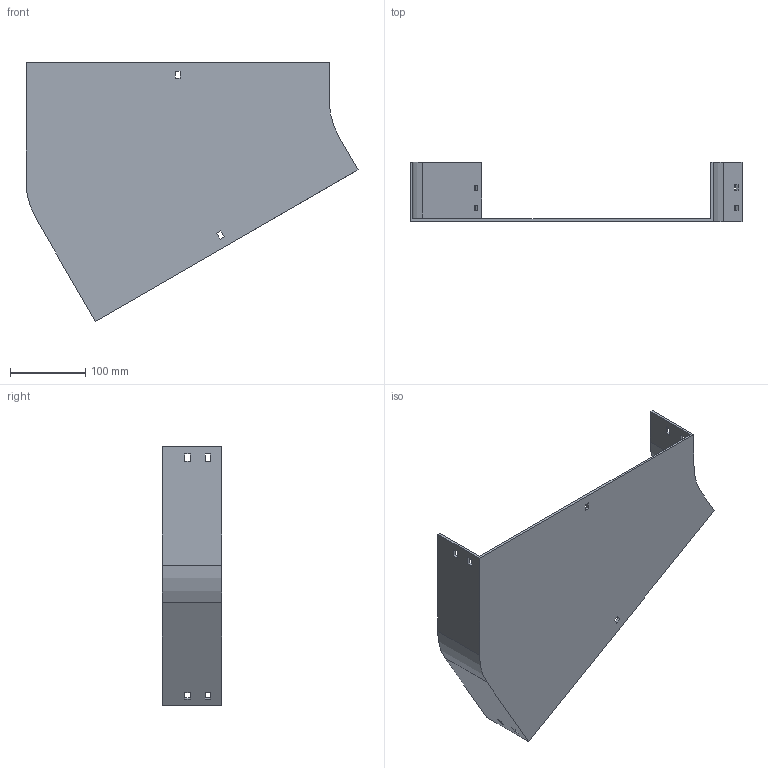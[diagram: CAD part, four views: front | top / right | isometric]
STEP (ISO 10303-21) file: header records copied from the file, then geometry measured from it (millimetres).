
FILE_DESCRIPTION (( 'STEP AP214' ), '1' );
FILE_NAME ('12B1C400.step', '2025-02-21T09:35:39', ( '' ), ( '' ), 'SwSTEP 2.0', 'SolidWorks 2023', '' );
FILE_SCHEMA (( 'AUTOMOTIVE_DESIGN' ));
Length unit declared in the file: millimetre
Products named in the file (1): 12B1C400
Bounding box: 442.4 x 79 x 345.3 mm (x, y, z)
Volume: 505607.2 mm3; surface area: 295796.7 mm2
Topology: 1 solids, 1 shells, 58 faces, 168 edges, 112 vertices
Faces by surface type: plane 54, cylinder 4
Entity records: 1943 total; most frequent: CARTESIAN_POINT 339, ORIENTED_EDGE 336, DIRECTION 294, EDGE_CURVE 168, LINE 160, VECTOR 160, VERTEX_POINT 112, EDGE_LOOP 78
